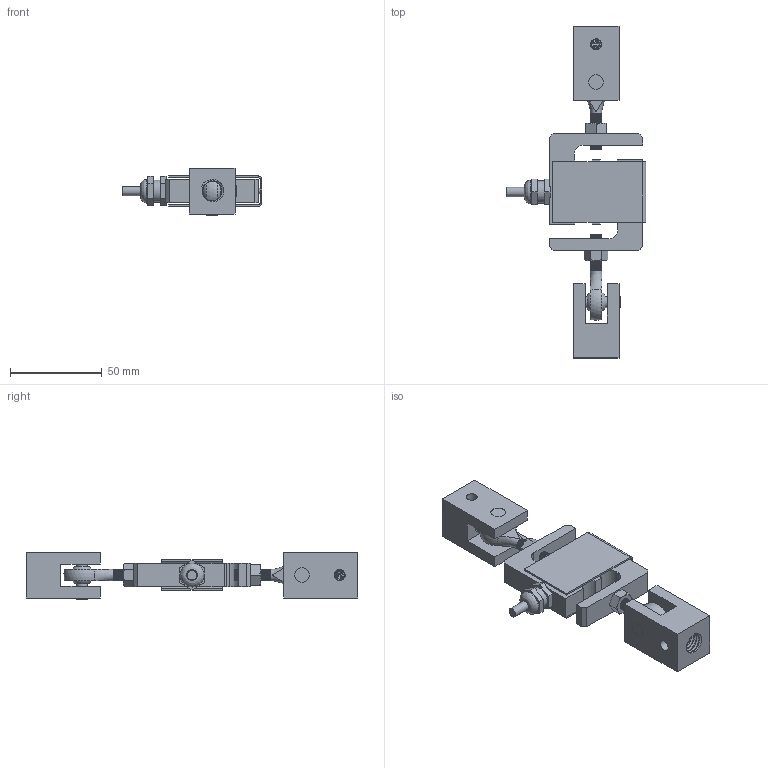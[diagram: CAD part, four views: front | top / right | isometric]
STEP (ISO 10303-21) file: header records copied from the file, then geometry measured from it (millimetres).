
FILE_DESCRIPTION(/* description */ (''),/* implementation_level */ '2;1');
FILE_NAME(/* name */ 'C:/Users/fardi/Dropbox/Work/Anyload/Load Cell Models/Product Catalog 3D/Weight Modules/101/101NHM2/101NHM2-(50-250)lb v9.step',/* time_stamp */ '2020-05-13T10:23:41-07:00',/* author */ (''),/* organization */ (''),/* preprocessor_version */ 'ST-DEVELOPER v18.1',/* originating_system */ 'Autodesk Translation Framework v9.3.0.1241',/* authorisation */ '');
FILE_SCHEMA (('AUTOMOTIVE_DESIGN { 1 0 10303 214 3 1 1 }'));
Length unit declared in the file: millimetre
Products named in the file (9): 101NHM2-(50-250)lb; 101NH-(25-250)lb; Connector v1; 94895A805; Eye Bolt v2; End Block; Eye Bolt v2(Mirror); 94895A805(Mirror) (1); End Block(Mirror) (1)
Assembly tree (8 placements, depth 3):
  101NHM2-(50-250)lb
    101NH-(25-250)lb
      Connector v1
    94895A805
    Eye Bolt v2
    End Block
    Eye Bolt v2(Mirror)
    94895A805(Mirror) (1)
    End Block(Mirror) (1)
Bounding box: 76.31 x 181 x 26 mm (x, y, z)
Volume: 71115.9 mm3; surface area: 40725.1 mm2
Topology: 8 solids, 8 shells, 400 faces, 1060 edges, 689 vertices
Faces by surface type: cylinder 217, plane 114, cone 32, bspline 29, sphere 6, torus 2
Full cylindrical faces by diameter (mm): 3 x2, 5.1 x1, 5.243 x16, 5.474 x4, 6 x8, 6.243 x28, 6.35 x16, 8 x2, 10 x1, 10.808 x12, 12 x1, 12.7 x12, 13 x1, 26.6 x1, 27.8 x2, 29.4 x2
Entity records: 28074 total; most frequent: CARTESIAN_POINT 18885, ORIENTED_EDGE 2120, DIRECTION 1472, EDGE_CURVE 1060, VERTEX_POINT 689, AXIS2_PLACEMENT_3D 545, B_SPLINE_CURVE_WITH_KNOTS 469, EDGE_LOOP 443
